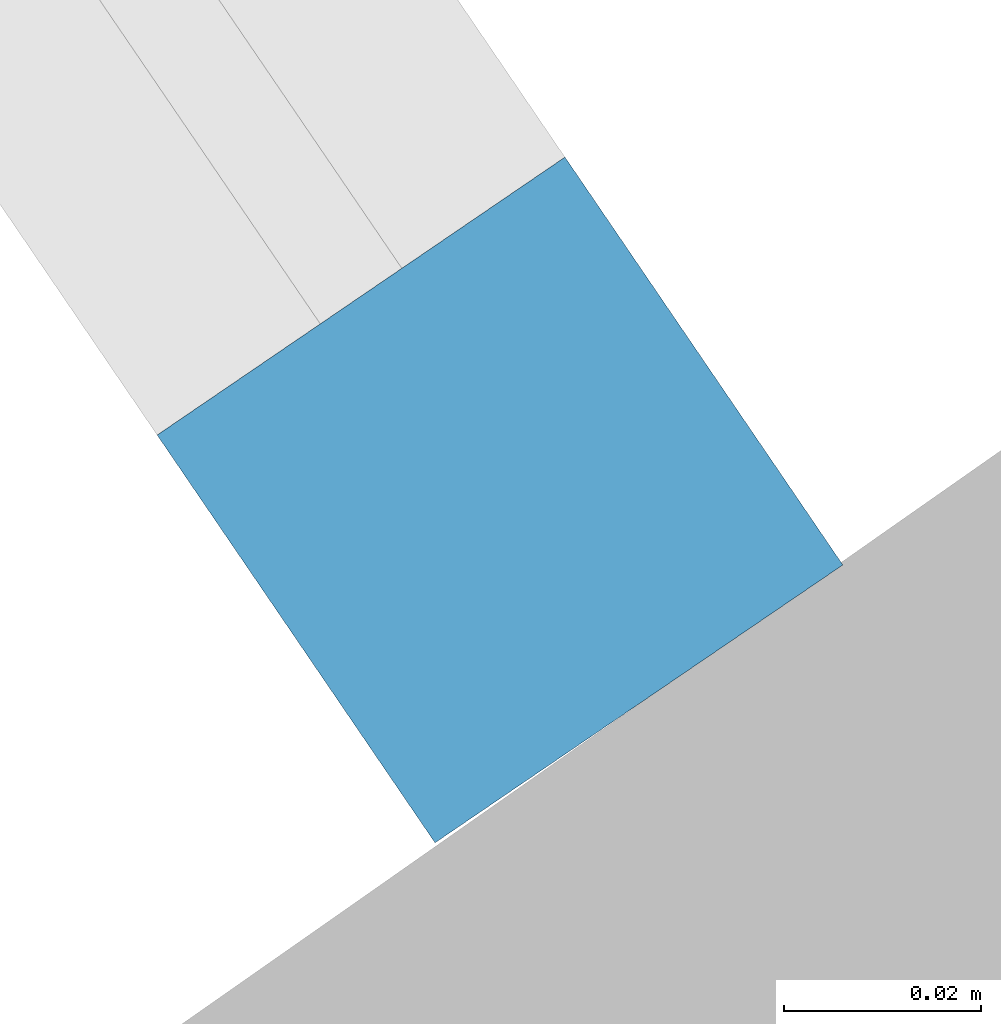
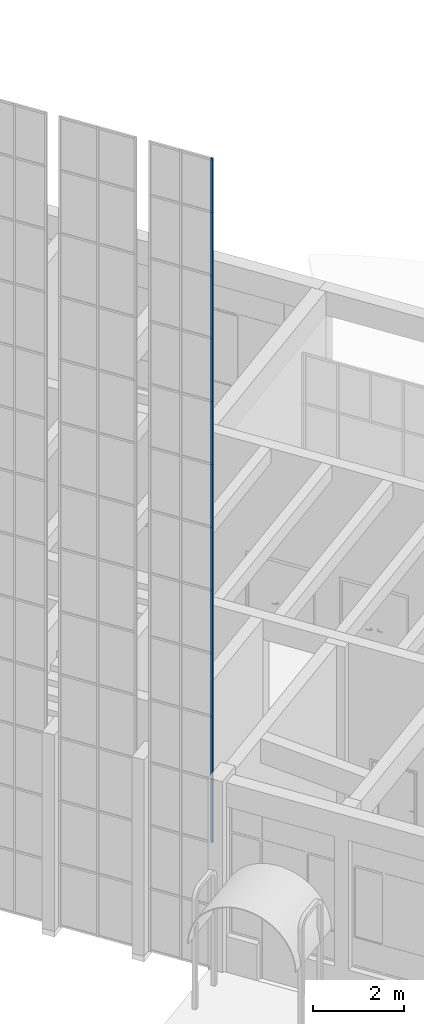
# One storey, part 22 of 157: 11 members, 1 element without a shape of its own.
"""IFC2X3 building model written with IfcOpenShell, lengths in millimetres."""

from ifc_helpers import new_model, entity, si_unit, converted_unit, derived_unit, direction, frame, origin, origin_2d_with_axis, place, context, subcontext, project, spatial, rectangle, extrude, source, transform, mapped, material, type_object, type_shapes, element, aggregate, save


model = new_model("IFC2X3")

# Units and contexts
model_context = context("Model", 3, precision=0.01, world=origin(), true_north=direction((6.123031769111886e-17, 1.0)))
body_context = subcontext(model_context, "Body", "Model", "MODEL_VIEW")
ifc_project = project(units=[si_unit("LENGTHUNIT", "METRE", prefix="MILLI"), si_unit("AREAUNIT", "SQUARE_METRE"), si_unit("VOLUMEUNIT", "CUBIC_METRE"), converted_unit("PLANEANGLEUNIT", "DEGREE", entity("IfcRatioMeasure", 0.017453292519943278), si_unit("PLANEANGLEUNIT", "RADIAN"), dimensions=[0, 0, 0, 0, 0, 0, 0]), si_unit("MASSUNIT", "GRAM", prefix="KILO"), derived_unit("MASSDENSITYUNIT", [(si_unit("MASSUNIT", "GRAM", prefix="KILO"), 1), (si_unit("LENGTHUNIT", "METRE"), -3)]), derived_unit("MOMENTOFINERTIAUNIT", [(si_unit("LENGTHUNIT", "METRE"), 4)]), si_unit("TIMEUNIT", "SECOND"), si_unit("FREQUENCYUNIT", "HERTZ"), si_unit("THERMODYNAMICTEMPERATUREUNIT", "DEGREE_CELSIUS"), derived_unit("THERMALTRANSMITTANCEUNIT", [(si_unit("MASSUNIT", "GRAM", prefix="KILO"), 1), (si_unit("THERMODYNAMICTEMPERATUREUNIT", "KELVIN"), -1), (si_unit("TIMEUNIT", "SECOND"), -3)]), derived_unit("THERMALCONDUCTANCEUNIT", [(si_unit("MASSUNIT", "GRAM", prefix="KILO"), 1), (si_unit("LENGTHUNIT", "METRE"), 1), (si_unit("THERMODYNAMICTEMPERATUREUNIT", "KELVIN"), -1), (si_unit("TIMEUNIT", "SECOND"), -3)]), derived_unit("VOLUMETRICFLOWRATEUNIT", [(si_unit("LENGTHUNIT", "METRE"), 3), (si_unit("TIMEUNIT", "SECOND"), -1)]), derived_unit("MASSFLOWRATEUNIT", [(si_unit("MASSUNIT", "GRAM", prefix="KILO"), 1), (si_unit("TIMEUNIT", "SECOND"), -1)]), derived_unit("ROTATIONALFREQUENCYUNIT", [(si_unit("TIMEUNIT", "SECOND"), -1)]), si_unit("ELECTRICCURRENTUNIT", "AMPERE"), si_unit("ELECTRICVOLTAGEUNIT", "VOLT"), si_unit("POWERUNIT", "WATT"), converted_unit("FORCEUNIT", "KIP", entity("IfcRatioMeasure", 2.088543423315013e-05), si_unit("FORCEUNIT", "NEWTON"), dimensions=[1, 1, -2, 0, 0, 0, 0]), si_unit("ILLUMINANCEUNIT", "LUX"), si_unit("LUMINOUSFLUXUNIT", "LUMEN"), si_unit("LUMINOUSINTENSITYUNIT", "CANDELA"), derived_unit("USERDEFINED", [(si_unit("MASSUNIT", "GRAM", prefix="KILO"), -1), (si_unit("LENGTHUNIT", "METRE"), -2), (si_unit("TIMEUNIT", "SECOND"), 3), (si_unit("LUMINOUSFLUXUNIT", "LUMEN"), 1)]), derived_unit("USERDEFINED", [(si_unit("MASSUNIT", "GRAM", prefix="KILO"), 1), (si_unit("LENGTHUNIT", "METRE"), 3), (si_unit("TIMEUNIT", "SECOND"), -3), (si_unit("ELECTRICCURRENTUNIT", "AMPERE"), -2)]), derived_unit("USERDEFINED", [(si_unit("LENGTHUNIT", "METRE"), 2), (si_unit("TIMEUNIT", "SECOND"), -2)]), derived_unit("SOUNDPOWERUNIT", [(si_unit("MASSUNIT", "GRAM", prefix="KILO"), 1), (si_unit("LENGTHUNIT", "METRE"), 2), (si_unit("TIMEUNIT", "SECOND"), -3)]), derived_unit("SOUNDPRESSUREUNIT", [(si_unit("MASSUNIT", "GRAM", prefix="KILO"), 1), (si_unit("LENGTHUNIT", "METRE"), -1), (si_unit("TIMEUNIT", "SECOND"), -2)]), derived_unit("LINEARVELOCITYUNIT", [(si_unit("LENGTHUNIT", "METRE"), 1), (si_unit("TIMEUNIT", "SECOND"), -1)]), si_unit("PRESSUREUNIT", "PASCAL"), derived_unit("USERDEFINED", [(si_unit("LENGTHUNIT", "METRE"), -2), (si_unit("MASSUNIT", "GRAM", prefix="KILO"), 1), (si_unit("TIMEUNIT", "SECOND"), -2)]), derived_unit("LINEARFORCEUNIT", [(si_unit("MASSUNIT", "GRAM", prefix="KILO"), 1), (si_unit("LENGTHUNIT", "METRE"), 1), (si_unit("TIMEUNIT", "SECOND"), -2), (si_unit("LENGTHUNIT", "METRE"), -1)]), derived_unit("PLANARFORCEUNIT", [(si_unit("MASSUNIT", "GRAM", prefix="KILO"), 1), (si_unit("LENGTHUNIT", "METRE"), 1), (si_unit("TIMEUNIT", "SECOND"), -2), (si_unit("LENGTHUNIT", "METRE"), -2)]), derived_unit("SPECIFICHEATCAPACITYUNIT", [(si_unit("LENGTHUNIT", "METRE"), 2), (si_unit("TIMEUNIT", "SECOND"), -2), (si_unit("THERMODYNAMICTEMPERATUREUNIT", "KELVIN"), -1)]), derived_unit("VAPORPERMEABILITYUNIT", [(si_unit("TIMEUNIT", "SECOND"), 1), (si_unit("LENGTHUNIT", "METRE"), -1)]), derived_unit("DYNAMICVISCOSITYUNIT", [(si_unit("MASSUNIT", "GRAM", prefix="KILO"), 1), (si_unit("LENGTHUNIT", "METRE"), -1), (si_unit("TIMEUNIT", "SECOND"), -1)]), derived_unit("THERMALEXPANSIONCOEFFICIENTUNIT", [(si_unit("THERMODYNAMICTEMPERATUREUNIT", "KELVIN"), -1)])], contexts=[model_context])

# Site, building, storey
site_placement = place(None, frame((0.0, 0.0, 0.0), z_axis=(0.0, 0.0, 1.0), x_axis=(0.8191520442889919, 0.5735764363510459, 0.0)))
site = spatial("IfcSite", under=ifc_project, at=site_placement, Name="Default", CompositionType="ELEMENT")
building_placement = place(site_placement, origin())
building = spatial("IfcBuilding", under=site, at=building_placement, CompositionType="ELEMENT")
storey_placement = place(building_placement, origin())
storey = spatial("IfcBuildingStorey", under=building, at=storey_placement, Name="1.EG +0.00", CompositionType="ELEMENT", Elevation=-4.331468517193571e-12)

# Curtain wall, members
curtain_wall_type = type_object("IfcCurtainWallType", Name="Curtain Wall:Curtain_Wall_CJC", PredefinedType="NOTDEFINED")
curtain_wall_placement = place(storey_placement, origin())
curtain_wall = element("IfcCurtainWall", 1, at=curtain_wall_placement, inside=storey, type_object=curtain_wall_type, Name="Curtain Wall:Curtain_Wall_CJC", ObjectType="Curtain Wall:Curtain_Wall_CJC")
ifc_material = material(Name="Aluminium")
member_type_1 = type_object("IfcMemberType", Name="Rectangular Mullion:5x5", PredefinedType="MULLION", material=ifc_material)
shared_shape_1 = source(origin(), body_context, "Body", "SweptSolid", [
    extrude(rectangle(XDim=50.0, YDim=50.0, at=origin_2d_with_axis()), frame((-25.0, 0.0, -1700.0), z_axis=(0.0, 0.0, 1.0), x_axis=(0.0, -1.0, 0.0)), (0.0, 0.0, 1.0), 1700.0000000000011),
])
type_shapes(member_type_1, [shared_shape_1])
member_1_placement = place(curtain_wall_placement, frame((-223122.44808046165, 109871.35891435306, 5100.0), z_axis=(0.0, 0.0, 1.0), x_axis=(-0.01272958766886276, -0.999918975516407, 0.0)))
member_1 = element("IfcMember", 2, at=member_1_placement, type_object=member_type_1, material=ifc_material, Name="Rectangular Mullion:5x5", ObjectType="Rectangular Mullion:5x5", context=body_context, shape_type="MappedRepresentation", body=[
    mapped(shared_shape_1, transform((0.0, 0.0, 0.0), scale=1.0)),
])
member_2_placement = place(curtain_wall_placement, frame((-223122.44808046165, 109871.35891435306, 6800.0), z_axis=(0.0, 0.0, 1.0), x_axis=(-0.01272958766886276, -0.999918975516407, 0.0)))
member_2 = element("IfcMember", 3, at=member_2_placement, type_object=member_type_1, material=ifc_material, Name="Rectangular Mullion:5x5", ObjectType="Rectangular Mullion:5x5", context=body_context, shape_type="MappedRepresentation", body=[
    mapped(shared_shape_1, transform((0.0, 0.0, 0.0), scale=1.0)),
])
member_3_placement = place(curtain_wall_placement, frame((-223122.44808046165, 109871.35891435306, 8500.0), z_axis=(0.0, 0.0, 1.0), x_axis=(-0.01272958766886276, -0.999918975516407, 0.0)))
member_3 = element("IfcMember", 4, at=member_3_placement, type_object=member_type_1, material=ifc_material, Name="Rectangular Mullion:5x5", ObjectType="Rectangular Mullion:5x5", context=body_context, shape_type="MappedRepresentation", body=[
    mapped(shared_shape_1, transform((0.0, 0.0, 0.0), scale=1.0)),
])
member_4_placement = place(curtain_wall_placement, frame((-223122.44808046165, 109871.35891435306, 10200.0), z_axis=(0.0, 0.0, 1.0), x_axis=(-0.01272958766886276, -0.999918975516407, 0.0)))
member_4 = element("IfcMember", 5, at=member_4_placement, type_object=member_type_1, material=ifc_material, Name="Rectangular Mullion:5x5", ObjectType="Rectangular Mullion:5x5", context=body_context, shape_type="MappedRepresentation", body=[
    mapped(shared_shape_1, transform((0.0, 0.0, 0.0), scale=1.0)),
])
member_5_placement = place(curtain_wall_placement, frame((-223122.44808046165, 109871.35891435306, 11900.0), z_axis=(0.0, 0.0, 1.0), x_axis=(-0.01272958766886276, -0.999918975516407, 0.0)))
member_5 = element("IfcMember", 6, at=member_5_placement, type_object=member_type_1, material=ifc_material, Name="Rectangular Mullion:5x5", ObjectType="Rectangular Mullion:5x5", context=body_context, shape_type="MappedRepresentation", body=[
    mapped(shared_shape_1, transform((0.0, 0.0, 0.0), scale=1.0)),
])
member_6_placement = place(curtain_wall_placement, frame((-223122.44808046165, 109871.35891435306, 13600.0), z_axis=(0.0, 0.0, 1.0), x_axis=(-0.01272958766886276, -0.999918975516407, 0.0)))
member_6 = element("IfcMember", 7, at=member_6_placement, type_object=member_type_1, material=ifc_material, Name="Rectangular Mullion:5x5", ObjectType="Rectangular Mullion:5x5", context=body_context, shape_type="MappedRepresentation", body=[
    mapped(shared_shape_1, transform((0.0, 0.0, 0.0), scale=1.0)),
])
member_7_placement = place(curtain_wall_placement, frame((-223122.44808046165, 109871.35891435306, 15300.0), z_axis=(0.0, 0.0, 1.0), x_axis=(-0.01272958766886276, -0.999918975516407, 0.0)))
member_7 = element("IfcMember", 8, at=member_7_placement, type_object=member_type_1, material=ifc_material, Name="Rectangular Mullion:5x5", ObjectType="Rectangular Mullion:5x5", context=body_context, shape_type="MappedRepresentation", body=[
    mapped(shared_shape_1, transform((0.0, 0.0, 0.0), scale=1.0)),
])
member_8_placement = place(curtain_wall_placement, frame((-223122.44808046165, 109871.35891435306, 17000.0), z_axis=(0.0, 0.0, 1.0), x_axis=(-0.01272958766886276, -0.999918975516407, 0.0)))
member_8 = element("IfcMember", 9, at=member_8_placement, type_object=member_type_1, material=ifc_material, Name="Rectangular Mullion:5x5", ObjectType="Rectangular Mullion:5x5", context=body_context, shape_type="MappedRepresentation", body=[
    mapped(shared_shape_1, transform((0.0, 0.0, 0.0), scale=1.0)),
])
member_9_placement = place(curtain_wall_placement, frame((-223122.44808046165, 109871.35891435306, 18700.0), z_axis=(0.0, 0.0, 1.0), x_axis=(-0.01272958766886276, -0.999918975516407, 0.0)))
member_9 = element("IfcMember", 10, at=member_9_placement, type_object=member_type_1, material=ifc_material, Name="Rectangular Mullion:5x5", ObjectType="Rectangular Mullion:5x5", context=body_context, shape_type="MappedRepresentation", body=[
    mapped(shared_shape_1, transform((0.0, 0.0, 0.0), scale=1.0)),
])
member_10_placement = place(curtain_wall_placement, frame((-223122.44808046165, 109871.35891435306, 20400.0), z_axis=(0.0, 0.0, 1.0), x_axis=(-0.01272958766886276, -0.999918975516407, 0.0)))
member_10 = element("IfcMember", 11, at=member_10_placement, type_object=member_type_1, material=ifc_material, Name="Rectangular Mullion:5x5", ObjectType="Rectangular Mullion:5x5", context=body_context, shape_type="MappedRepresentation", body=[
    mapped(shared_shape_1, transform((0.0, 0.0, 0.0), scale=1.0)),
])
member_type_2 = type_object("IfcMemberType", Name="Rectangular Mullion:5x5", PredefinedType="MULLION", material=ifc_material)
shared_shape_2 = source(origin(), body_context, "Body", "SweptSolid", [
    extrude(rectangle(XDim=50.0, YDim=50.0, at=origin_2d_with_axis()), frame((-25.0, 0.0, -1450.0), z_axis=(0.0, 0.0, 1.0), x_axis=(0.0, -1.0, 0.0)), (0.0, 0.0, 1.0), 1450.0000000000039),
])
type_shapes(member_type_2, [shared_shape_2])
member_11_placement = place(curtain_wall_placement, frame((-223122.44808046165, 109871.35891435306, 21850.0), z_axis=(0.0, 0.0, 1.0), x_axis=(-0.01272958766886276, -0.999918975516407, 0.0)))
member_11 = element("IfcMember", 12, at=member_11_placement, type_object=member_type_2, material=ifc_material, Name="Rectangular Mullion:5x5", ObjectType="Rectangular Mullion:5x5", context=body_context, shape_type="MappedRepresentation", body=[
    mapped(shared_shape_2, transform((0.0, 0.0, 0.0), scale=1.0)),
])
aggregate(curtain_wall, [member_11, member_1, member_2, member_3, member_4, member_5, member_6, member_7, member_8, member_9, member_10])

save(model, "model.ifc")
